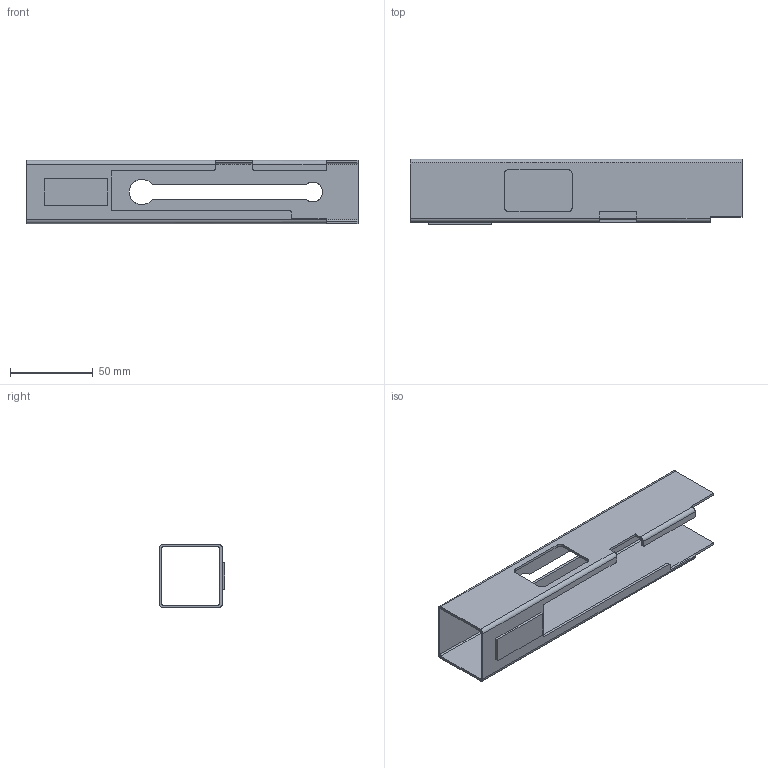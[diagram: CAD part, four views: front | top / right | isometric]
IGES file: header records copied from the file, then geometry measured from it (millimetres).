
Start section: SolidWorks IGES file using analytic representation for surfaces
Global section: file name: C:\Users\owner\Desktop\MAC 10 upper rec.IGS; native system: SolidWorks 2008; preprocessor: SolidWorks 2008; author: owner; date: 110622.223920; units: inch
Bounding box: 200.03 x 39.62 x 38.1 mm (x, y, z)
Surface area: 46503 mm2 (no closed solid volume)
Topology: 0 solids, 0 shells, 59 faces, 640 edges, 640 vertices
Faces by surface type: bspline 36, revolution 23
